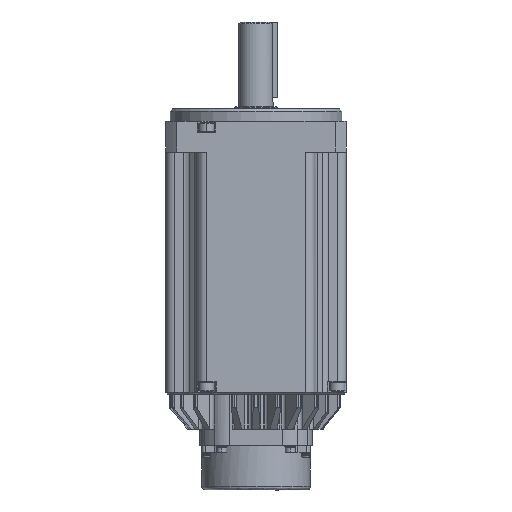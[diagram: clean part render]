
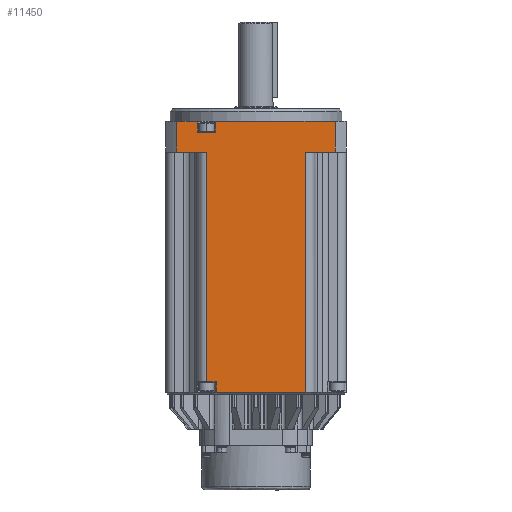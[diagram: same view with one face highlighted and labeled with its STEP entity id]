
A CAD part, front view. The second image highlights one B-rep face of the part: STEP entity #11450.
In plain terms, the highlighted planar face has unit normal (0, -1, 0).
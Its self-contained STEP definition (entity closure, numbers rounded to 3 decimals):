
#1263 = VECTOR ( 'NONE', #18219, 1000. ) ;
#2351 = VERTEX_POINT ( 'NONE', #15614 ) ;
#2376 = VERTEX_POINT ( 'NONE', #69323 ) ;
#2572 = CARTESIAN_POINT ( 'NONE',  ( 39.821, -51.128, 220.007 ) ) ;
#3543 = VERTEX_POINT ( 'NONE', #60403 ) ;
#4544 = EDGE_CURVE ( 'NONE', #31868, #9309, #72682, .T. ) ;
#4614 = CARTESIAN_POINT ( 'NONE',  ( -42.679, -51.128, 309.507 ) ) ;
#6084 = VERTEX_POINT ( 'NONE', #58278 ) ;
#6863 = VECTOR ( 'NONE', #83329, 1000. ) ;
#7001 = EDGE_CURVE ( 'NONE', #21332, #2351, #9031, .T. ) ;
#9031 = LINE ( 'NONE', #16817, #80773 ) ;
#9240 = PLANE ( 'NONE',  #83729 ) ;
#9309 = VERTEX_POINT ( 'NONE', #25640 ) ;
#10191 = LINE ( 'NONE', #48925, #43603 ) ;
#11270 = DIRECTION ( 'NONE',  ( 1., 0., 0. ) ) ;
#11367 = CARTESIAN_POINT ( 'NONE',  ( 39.821, -51.128, 292.507 ) ) ;
#11450 = ADVANCED_FACE ( 'NONE', ( #75290 ), #9240, .F. ) ;
#11851 = CARTESIAN_POINT ( 'NONE',  ( -14.679, -51.128, 165.507 ) ) ;
#13688 = ORIENTED_EDGE ( 'NONE', *, *, #85153, .F. ) ;
#14603 = EDGE_CURVE ( 'NONE', #38595, #3543, #16858, .T. ) ;
#15614 = CARTESIAN_POINT ( 'NONE',  ( 51.164, -51.128, 292.507 ) ) ;
#16229 = LINE ( 'NONE', #11367, #84961 ) ;
#16537 = VERTEX_POINT ( 'NONE', #11851 ) ;
#16817 = CARTESIAN_POINT ( 'NONE',  ( 51.164, -51.128, 220.007 ) ) ;
#16858 = LINE ( 'NONE', #64496, #1263 ) ;
#18219 = DIRECTION ( 'NONE',  ( 0., 0., 1. ) ) ;
#19907 = VERTEX_POINT ( 'NONE', #44088 ) ;
#20299 = LINE ( 'NONE', #4614, #55760 ) ;
#20378 = CARTESIAN_POINT ( 'NONE',  ( 34.821, -51.128, 220.007 ) ) ;
#21332 = VERTEX_POINT ( 'NONE', #38254 ) ;
#21521 = LINE ( 'NONE', #36882, #72566 ) ;
#22397 = DIRECTION ( 'NONE',  ( 0., 0., 1. ) ) ;
#22673 = DIRECTION ( 'NONE',  ( 0., 0., -1. ) ) ;
#22691 = DIRECTION ( 'NONE',  ( 0., 0., 1. ) ) ;
#24524 = LINE ( 'NONE', #20378, #77594 ) ;
#25640 = CARTESIAN_POINT ( 'NONE',  ( -36.523, -51.128, 292.507 ) ) ;
#26123 = DIRECTION ( 'NONE',  ( -1., 0., 0. ) ) ;
#26139 = ORIENTED_EDGE ( 'NONE', *, *, #40594, .F. ) ;
#28836 = EDGE_CURVE ( 'NONE', #29366, #78334, #77973, .T. ) ;
#29012 = ORIENTED_EDGE ( 'NONE', *, *, #75116, .F. ) ;
#29366 = VERTEX_POINT ( 'NONE', #84210 ) ;
#30130 = CARTESIAN_POINT ( 'NONE',  ( 39.821, -51.128, 303.507 ) ) ;
#30216 = DIRECTION ( 'NONE',  ( -1., 0., 0. ) ) ;
#30262 = DIRECTION ( 'NONE',  ( 0., 0., -1. ) ) ;
#31555 = LINE ( 'NONE', #58877, #47170 ) ;
#31868 = VERTEX_POINT ( 'NONE', #53972 ) ;
#32605 = VECTOR ( 'NONE', #72169, 1000. ) ;
#33937 = CARTESIAN_POINT ( 'NONE',  ( -15.179, -51.128, 303.507 ) ) ;
#34754 = LINE ( 'NONE', #65435, #32605 ) ;
#35039 = EDGE_CURVE ( 'NONE', #43940, #2376, #20299, .T. ) ;
#35054 = ORIENTED_EDGE ( 'NONE', *, *, #37286, .F. ) ;
#36882 = CARTESIAN_POINT ( 'NONE',  ( -14.679, -51.128, 220.007 ) ) ;
#37116 = ORIENTED_EDGE ( 'NONE', *, *, #35039, .F. ) ;
#37286 = EDGE_CURVE ( 'NONE', #53508, #31868, #10191, .T. ) ;
#38254 = CARTESIAN_POINT ( 'NONE',  ( 51.164, -51.128, 309.507 ) ) ;
#38595 = VERTEX_POINT ( 'NONE', #33937 ) ;
#39150 = DIRECTION ( 'NONE',  ( -1., 0., 0. ) ) ;
#39719 = ORIENTED_EDGE ( 'NONE', *, *, #4544, .F. ) ;
#40594 = EDGE_CURVE ( 'NONE', #78334, #16537, #21521, .T. ) ;
#41100 = EDGE_CURVE ( 'NONE', #2351, #6084, #16229, .T. ) ;
#41125 = EDGE_CURVE ( 'NONE', #3543, #21332, #53797, .T. ) ;
#42579 = ORIENTED_EDGE ( 'NONE', *, *, #7001, .F. ) ;
#43603 = VECTOR ( 'NONE', #22397, 1000. ) ;
#43940 = VERTEX_POINT ( 'NONE', #75797 ) ;
#44088 = CARTESIAN_POINT ( 'NONE',  ( -25.179, -51.128, 303.507 ) ) ;
#45882 = CARTESIAN_POINT ( 'NONE',  ( -14.679, -51.128, 159.507 ) ) ;
#45936 = EDGE_LOOP ( 'NONE', ( #71786, #61583, #80924, #55729, #37116, #47916, #39719, #35054, #13688, #26139, #67231, #29012, #83824, #42579 ) ) ;
#47170 = VECTOR ( 'NONE', #66404, 1000. ) ;
#47916 = ORIENTED_EDGE ( 'NONE', *, *, #53177, .F. ) ;
#48925 = CARTESIAN_POINT ( 'NONE',  ( -20.179, -51.128, 220.007 ) ) ;
#51715 = VECTOR ( 'NONE', #71100, 1000. ) ;
#53177 = EDGE_CURVE ( 'NONE', #9309, #43940, #34754, .T. ) ;
#53508 = VERTEX_POINT ( 'NONE', #83627 ) ;
#53688 = EDGE_CURVE ( 'NONE', #2376, #19907, #31555, .T. ) ;
#53797 = LINE ( 'NONE', #71388, #51715 ) ;
#53972 = CARTESIAN_POINT ( 'NONE',  ( -20.179, -51.128, 292.507 ) ) ;
#55729 = ORIENTED_EDGE ( 'NONE', *, *, #53688, .F. ) ;
#55760 = VECTOR ( 'NONE', #11270, 1000. ) ;
#58278 = CARTESIAN_POINT ( 'NONE',  ( 34.821, -51.128, 292.507 ) ) ;
#58877 = CARTESIAN_POINT ( 'NONE',  ( -25.179, -51.128, 220.007 ) ) ;
#60403 = CARTESIAN_POINT ( 'NONE',  ( -15.179, -51.128, 309.507 ) ) ;
#60910 = EDGE_CURVE ( 'NONE', #19907, #38595, #77682, .T. ) ;
#61583 = ORIENTED_EDGE ( 'NONE', *, *, #14603, .F. ) ;
#62543 = DIRECTION ( 'NONE',  ( 0., 1., 0. ) ) ;
#63618 = DIRECTION ( 'NONE',  ( 0., 0., 1. ) ) ;
#64496 = CARTESIAN_POINT ( 'NONE',  ( -15.179, -51.128, 220.007 ) ) ;
#64673 = DIRECTION ( 'NONE',  ( -1., 0., 0. ) ) ;
#65288 = CARTESIAN_POINT ( 'NONE',  ( 56.258, -51.128, 292.507 ) ) ;
#65435 = CARTESIAN_POINT ( 'NONE',  ( -36.523, -51.128, 316.507 ) ) ;
#66404 = DIRECTION ( 'NONE',  ( 0., 0., -1. ) ) ;
#66405 = VECTOR ( 'NONE', #39150, 1000. ) ;
#67231 = ORIENTED_EDGE ( 'NONE', *, *, #28836, .F. ) ;
#69323 = CARTESIAN_POINT ( 'NONE',  ( -25.179, -51.128, 309.507 ) ) ;
#69552 = VECTOR ( 'NONE', #30216, 1000. ) ;
#70054 = CARTESIAN_POINT ( 'NONE',  ( 39.821, -51.128, 165.507 ) ) ;
#71100 = DIRECTION ( 'NONE',  ( 1., 0., 0. ) ) ;
#71388 = CARTESIAN_POINT ( 'NONE',  ( -42.679, -51.128, 309.507 ) ) ;
#71786 = ORIENTED_EDGE ( 'NONE', *, *, #41125, .F. ) ;
#72169 = DIRECTION ( 'NONE',  ( 0., 0., 1. ) ) ;
#72566 = VECTOR ( 'NONE', #63618, 1000. ) ;
#72669 = CARTESIAN_POINT ( 'NONE',  ( 39.821, -51.128, 159.507 ) ) ;
#72682 = LINE ( 'NONE', #65288, #66405 ) ;
#75116 = EDGE_CURVE ( 'NONE', #6084, #29366, #24524, .T. ) ;
#75290 = FACE_OUTER_BOUND ( 'NONE', #45936, .T. ) ;
#75797 = CARTESIAN_POINT ( 'NONE',  ( -36.523, -51.128, 309.507 ) ) ;
#77594 = VECTOR ( 'NONE', #30262, 1000. ) ;
#77682 = LINE ( 'NONE', #30130, #6863 ) ;
#77973 = LINE ( 'NONE', #72669, #80058 ) ;
#78334 = VERTEX_POINT ( 'NONE', #45882 ) ;
#80058 = VECTOR ( 'NONE', #26123, 1000. ) ;
#80773 = VECTOR ( 'NONE', #22673, 1000. ) ;
#80924 = ORIENTED_EDGE ( 'NONE', *, *, #60910, .F. ) ;
#83062 = LINE ( 'NONE', #70054, #69552 ) ;
#83329 = DIRECTION ( 'NONE',  ( 1., 0., 0. ) ) ;
#83627 = CARTESIAN_POINT ( 'NONE',  ( -20.179, -51.128, 165.507 ) ) ;
#83729 = AXIS2_PLACEMENT_3D ( 'NONE', #2572, #62543, #22691 ) ;
#83824 = ORIENTED_EDGE ( 'NONE', *, *, #41100, .F. ) ;
#84210 = CARTESIAN_POINT ( 'NONE',  ( 34.821, -51.128, 159.507 ) ) ;
#84961 = VECTOR ( 'NONE', #64673, 1000. ) ;
#85153 = EDGE_CURVE ( 'NONE', #16537, #53508, #83062, .T. ) ;
